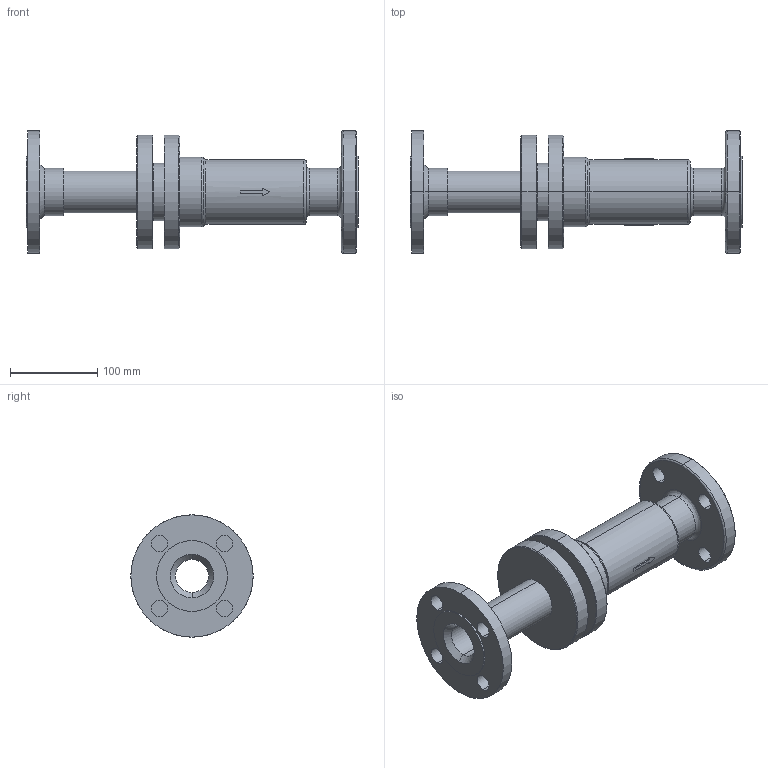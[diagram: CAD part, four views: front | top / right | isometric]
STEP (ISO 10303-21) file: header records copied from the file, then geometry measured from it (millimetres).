
FILE_DESCRIPTION( (''), '2;1');
FILE_NAME ('PC1027.9516.ES-10-100 40A_21017.stp','2025-07-30T11:21:46',(''),(''),'spGate 20.6.3 (****-****-****-****)','','');
FILE_SCHEMA (('AUTOMOTIVE_DESIGN'));
Length unit declared in the file: millimetre
Bounding box: 380 x 140 x 140 mm (x, y, z)
Volume: 1485234.2 mm3; surface area: 233409.5 mm2
Topology: 1 solids, 1 shells, 103 faces, 236 edges, 148 vertices
Faces by surface type: cylinder 42, bspline 32, plane 29
Entity records: 5225 total; most frequent: CARTESIAN_POINT 1085, ORIENTED_EDGE 472, DIRECTION 426, COLOUR_RGB 340, PRESENTATION_STYLE_ASSIGNMENT 340, STYLED_ITEM 340, EDGE_CURVE 236, DRAUGHTING_PRE_DEFINED_CURVE_FONT 236
